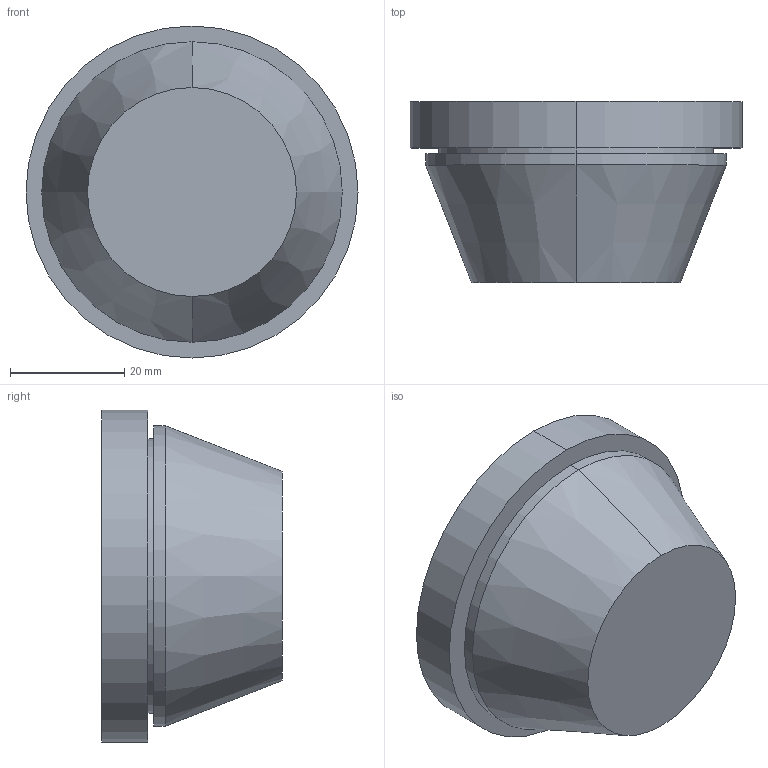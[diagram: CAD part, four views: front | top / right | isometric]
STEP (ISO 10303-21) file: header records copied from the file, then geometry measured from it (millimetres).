
FILE_DESCRIPTION (( 'STEP AP203' ), '1' );
FILE_NAME ('100304.STEP', '2012-10-29T10:43:30', ( 'Joni' ), ( 'Hewlett-Packard Company' ), 'SwSTEP 2.0', 'SolidWorks 2012', '' );
FILE_SCHEMA (( 'CONFIG_CONTROL_DESIGN' ));
Length unit declared in the file: millimetre
Products named in the file (1): 100304
Bounding box: 58 x 31.6 x 58 mm (x, y, z)
Volume: 59766.7 mm3; surface area: 9909.1 mm2
Topology: 1 solids, 1 shells, 12 faces, 22 edges, 14 vertices
Faces by surface type: cylinder 6, plane 4, cone 2
Entity records: 381 total; most frequent: DIRECTION 62, CARTESIAN_POINT 49, ORIENTED_EDGE 44, AXIS2_PLACEMENT_3D 27, EDGE_CURVE 22, VERTEX_POINT 14, EDGE_LOOP 14, CIRCLE 14
